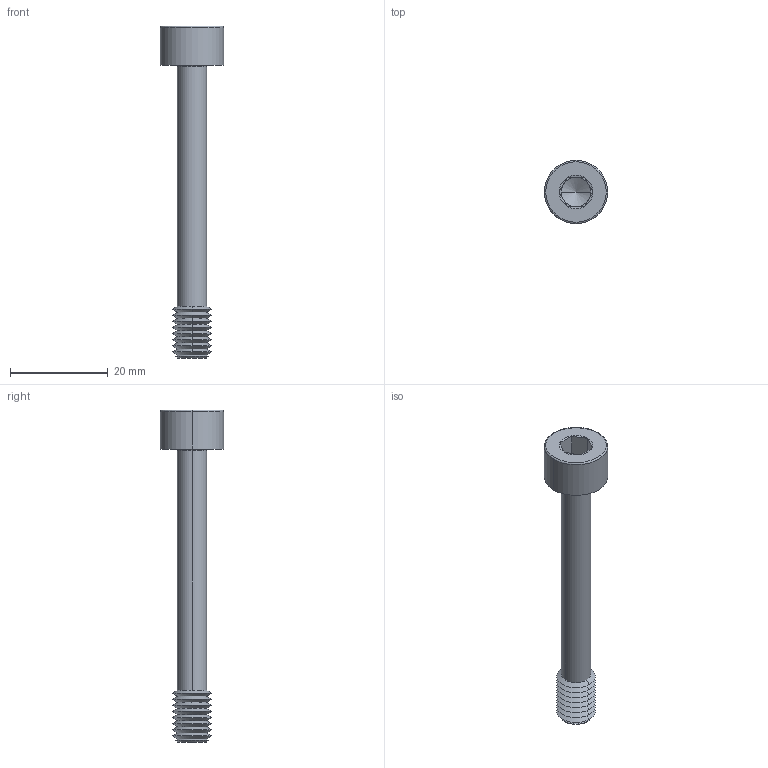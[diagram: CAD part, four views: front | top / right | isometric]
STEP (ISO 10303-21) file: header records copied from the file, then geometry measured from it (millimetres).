
FILE_DESCRIPTION (( 'STEP AP203' ), '1' );
FILE_NAME ('P0154.080-060-BL.step', '2024-06-17T11:32:50', ( '' ), ( '' ), 'SwSTEP 2.0', 'SolidWorks 2019', '' );
FILE_SCHEMA (( 'CONFIG_CONTROL_DESIGN' ));
Length unit declared in the file: millimetre
Products named in the file (1): P0154.080-060-BL
Bounding box: 13 x 13 x 68 mm (x, y, z)
Volume: 2651.9 mm3; surface area: 2095 mm2
Topology: 1 solids, 1 shells, 67 faces, 136 edges, 71 vertices
Faces by surface type: cone 44, plane 15, torus 4, cylinder 4
Entity records: 1787 total; most frequent: DIRECTION 332, CARTESIAN_POINT 299, ORIENTED_EDGE 268, AXIS2_PLACEMENT_3D 136, EDGE_CURVE 134, VERTEX_POINT 71, EDGE_LOOP 69, CIRCLE 68
